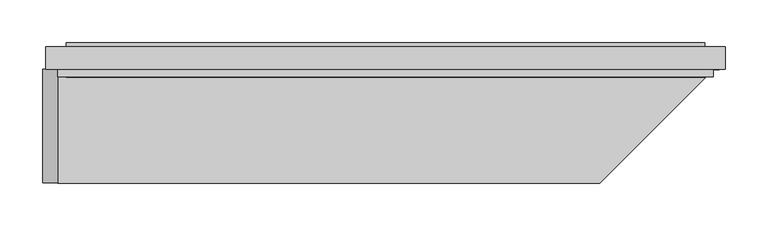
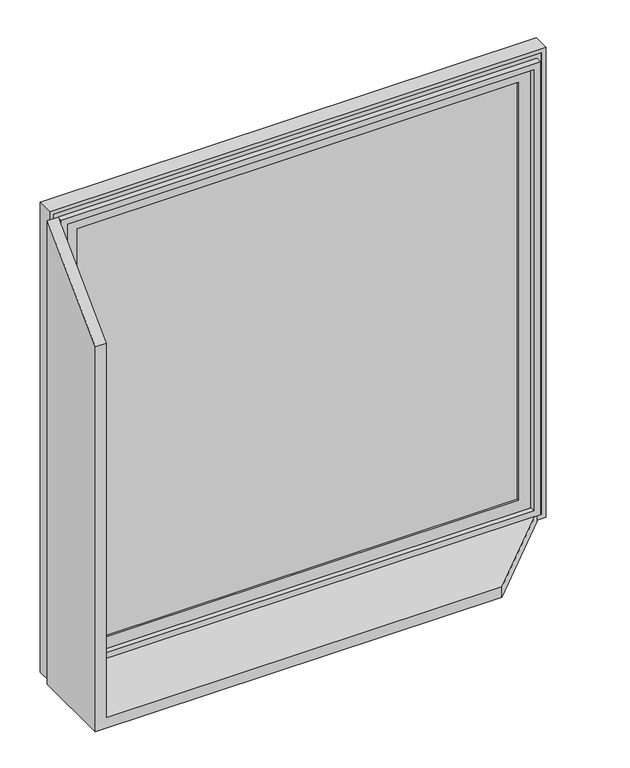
"""IFC4 building model written with IfcOpenShell, lengths in millimetres: plate geometry, SCISSOR PANEL : SCISSOR PANEL."""

from ifc_helpers import new_model, si_unit, frame, origin, place, context, project, spatial, polyline, outline, extrude, faceted_brep, source, transform, mapped, element, save


def plate_5da62759(model_context):
    return source(origin(), model_context, "Body", "SolidModel", [
        faceted_brep([(-382.5, 132.5, 17.5), (382.5, 132.5, 17.5), (382.5, 132.5, 0.0), (-400.0, 132.5, 0.0), (-400.0, 132.5, 782.5), (-382.5, 132.5, 782.5), (-382.5, 0.0, 650.0), (-382.5, 0.0, 17.5), (-400.0, 0.0, 650.0), (250.0, 0.0, 17.5), (250.0, 0.0, 0.0), (-400.0, 0.0, 0.0)], [[[0, 1, 2, 3, 4, 5]], [[0, 5, 6, 7]], [[8, 6, 5, 4]], [[9, 10, 2, 1]], [[8, 11, 10, 9, 7, 6]], [[3, 11, 8, 4]], [[11, 3, 2, 10]], [[1, 0, 7, 9]]]),
        extrude(outline(polyline([(-369.5, 160.5), (369.5, 160.5), (369.5, 135.5), (-369.5, 135.5), (-369.5, 160.5)])), frame((0.0, 0.0, 30.5), z_axis=(0.0, 0.0, 1.0), x_axis=(1.0, 0.0, 0.0)), (0.0, 0.0, 1.0), 739.0),
        faceted_brep([(-352.5, 135.5, 752.5), (-352.5, 132.5, 752.5), (-352.5, 132.5, 47.5), (-352.5, 135.5, 47.5), (-369.5, 160.5, 769.5), (-369.5, 135.5, 769.5), (-369.5, 135.5, 30.5), (-369.5, 160.5, 30.5), (-352.5, 163.5, 752.5), (-352.5, 160.5, 752.5), (-352.5, 160.5, 47.5), (-352.5, 163.5, 47.5), (-372.5, 132.5, 772.5), (-372.5, 163.5, 772.5), (-372.5, 163.5, 27.5), (-372.5, 132.5, 27.5), (352.5, 132.5, 47.5), (352.5, 135.5, 47.5), (369.5, 135.5, 30.5), (369.5, 160.5, 30.5), (352.5, 160.5, 47.5), (352.5, 163.5, 47.5), (372.5, 163.5, 27.5), (372.5, 132.5, 27.5), (352.5, 132.5, 752.5), (352.5, 135.5, 752.5), (369.5, 135.5, 769.5), (369.5, 160.5, 769.5), (352.5, 160.5, 752.5), (352.5, 163.5, 752.5), (372.5, 163.5, 772.5), (372.5, 132.5, 772.5)], [[[0, 1, 2, 3]], [[4, 5, 6, 7]], [[8, 9, 10, 11]], [[12, 13, 14, 15]], [[3, 2, 16, 17]], [[7, 6, 18, 19]], [[11, 10, 20, 21]], [[15, 14, 22, 23]], [[17, 16, 24, 25]], [[19, 18, 26, 27]], [[21, 20, 28, 29]], [[23, 22, 30, 31]], [[15, 23, 31, 12], [1, 24, 16, 2]], [[25, 24, 1, 0]], [[5, 26, 18, 6], [3, 17, 25, 0]], [[27, 26, 5, 4]], [[7, 19, 27, 4], [9, 28, 20, 10]], [[29, 28, 9, 8]], [[13, 30, 22, 14], [11, 21, 29, 8]], [[31, 30, 13, 12]]]),
        faceted_brep([(-396.5, 132.5, 796.5), (-396.5, 158.75, 796.5), (-396.5, 158.75, 3.5), (-396.5, 132.5, 3.5), (-389.5, 150.0, 789.5), (-389.5, 132.5, 789.5), (-389.5, 132.5, 10.5), (-389.5, 150.0, 10.5), (-382.5, 123.75, 782.5), (-382.5, 150.0, 782.5), (-382.5, 150.0, 17.5), (-382.5, 123.75, 17.5), (-372.5, 158.75, 772.5), (-372.5, 123.75, 772.5), (-372.5, 123.75, 27.5), (-372.5, 158.75, 27.5), (396.5, 158.75, 3.5), (396.5, 132.5, 3.5), (389.5, 132.5, 10.5), (389.5, 150.0, 10.5), (382.5, 150.0, 17.5), (382.5, 123.75, 17.5), (372.5, 123.75, 27.5), (372.5, 158.75, 27.5), (396.5, 158.75, 796.5), (396.5, 132.5, 796.5), (389.5, 132.5, 789.5), (389.5, 150.0, 789.5), (382.5, 150.0, 782.5), (382.5, 123.75, 782.5), (372.5, 123.75, 772.5), (372.5, 158.75, 772.5)], [[[0, 1, 2, 3]], [[4, 5, 6, 7]], [[8, 9, 10, 11]], [[12, 13, 14, 15]], [[3, 2, 16, 17]], [[7, 6, 18, 19]], [[11, 10, 20, 21]], [[15, 14, 22, 23]], [[17, 16, 24, 25]], [[19, 18, 26, 27]], [[21, 20, 28, 29]], [[23, 22, 30, 31]], [[25, 24, 1, 0]], [[3, 17, 25, 0], [5, 26, 18, 6]], [[27, 26, 5, 4]], [[7, 19, 27, 4], [9, 28, 20, 10]], [[29, 28, 9, 8]], [[11, 21, 29, 8], [13, 30, 22, 14]], [[31, 30, 13, 12]], [[1, 24, 16, 2], [15, 23, 31, 12]]]),
        extrude(outline(polyline([(789.5, -389.5), (10.5, -389.5), (10.5, 389.5), (789.5, 389.5), (789.5, -389.5)]), holes=[polyline([(782.5, -382.5), (782.5, 382.5), (17.5, 382.5), (17.5, -382.5), (782.5, -382.5)])]), frame((0.0, 132.5, 0.0), z_axis=(0.0, 1.0, 0.0), x_axis=(0.0, 0.0, 1.0)), (0.0, 0.0, 1.0), 17.5),
    ])


if __name__ == "__main__":
    model = new_model("IFC4")
    model_context = context("Model", 3, world=origin())
    ifc_project = project(units=[si_unit("LENGTHUNIT", "METRE", prefix="MILLI")], contexts=[model_context])
    site = spatial("IfcSite", under=ifc_project)
    building = spatial("IfcBuilding", under=site)
    placement = place(None, origin())
    plate_shape = plate_5da62759(model_context)
    element("IfcPlate", 1, ObjectType="SCISSOR PANEL : SCISSOR PANEL", at=placement, inside=building, context=model_context, shape_type="MappedRepresentation", body=[
        mapped(plate_shape, transform((0.0, 0.0, 0.0), x_axis=(1.0, 0.0, 0.0), y_axis=(0.0, 1.0, 0.0), z_axis=(0.0, 0.0, 1.0))),
    ])
    save(model, "model.ifc")
